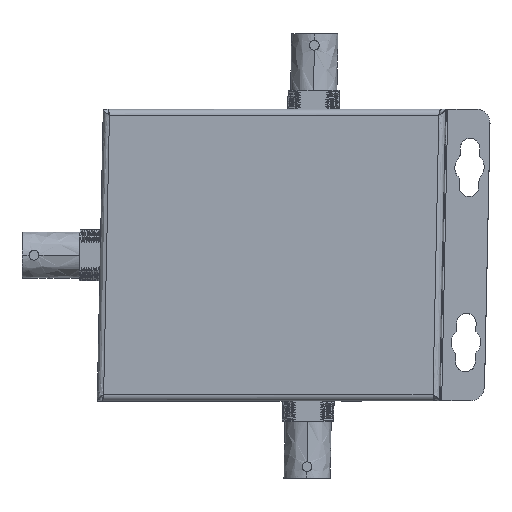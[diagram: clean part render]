
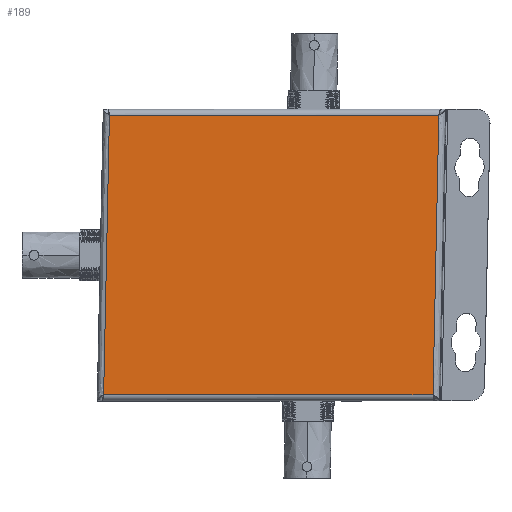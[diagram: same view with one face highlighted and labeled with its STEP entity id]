
A CAD part, top view. The second image highlights one B-rep face of the part: STEP entity #189.
In plain terms, the highlighted free-form (B-spline) face has degree [1, 1] with [2, 2] control points.
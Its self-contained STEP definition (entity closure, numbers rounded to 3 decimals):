
#189=ADVANCED_FACE('',(#1053),#14172,.T.);
#1053=FACE_OUTER_BOUND('',#1929,.T.);
#1929=EDGE_LOOP('',(#3284,#3285,#3286,#3287));
#3284=ORIENTED_EDGE('',*,*,#7842,.F.);
#3285=ORIENTED_EDGE('',*,*,#7910,.F.);
#3286=ORIENTED_EDGE('',*,*,#7905,.F.);
#3287=ORIENTED_EDGE('',*,*,#7848,.F.);
#7842=EDGE_CURVE('',#12675,#12676,#10233,.T.);
#7848=EDGE_CURVE('',#12676,#12677,#10237,.T.);
#7905=EDGE_CURVE('',#12677,#12710,#10274,.T.);
#7910=EDGE_CURVE('',#12710,#12675,#10279,.T.);
#10233=B_SPLINE_CURVE_WITH_KNOTS('',1,(#18961,#18962),.UNSPECIFIED.,.F.,
 .F.,(2,2),(-67.4,0.),.UNSPECIFIED.);
#10237=B_SPLINE_CURVE_WITH_KNOTS('',1,(#18991,#18992),.UNSPECIFIED.,.F.,
 .F.,(2,2),(-57.4,0.),.UNSPECIFIED.);
#10274=B_SPLINE_CURVE_WITH_KNOTS('',1,(#19165,#19166),.UNSPECIFIED.,.F.,
 .F.,(2,2),(-67.4,0.),.UNSPECIFIED.);
#10279=B_SPLINE_CURVE_WITH_KNOTS('',1,(#19191,#19192),.UNSPECIFIED.,.F.,
 .F.,(2,2),(-57.4,0.),.UNSPECIFIED.);
#12675=VERTEX_POINT('',#18611);
#12676=VERTEX_POINT('',#18612);
#12677=VERTEX_POINT('',#18613);
#12710=VERTEX_POINT('',#18646);
#14172=B_SPLINE_SURFACE_WITH_KNOTS('',1,1,((#18133,#18134),(#18135,#18136)),
 .UNSPECIFIED.,.F.,.F.,.F.,(2,2),(2,2),(-35.254,35.254),
(-41.133,41.133),.UNSPECIFIED.);
#18133=CARTESIAN_POINT('',(-10.608,62.313,-0.031));
#18134=CARTESIAN_POINT('',(72.748,62.359,0.381));
#18135=CARTESIAN_POINT('',(-12.083,-8.803,0.045));
#18136=CARTESIAN_POINT('',(71.274,-8.756,0.457));
#18611=CARTESIAN_POINT('',(-3.214,55.706,0.013));
#18612=CARTESIAN_POINT('',(65.08,55.744,0.351));
#18613=CARTESIAN_POINT('',(63.879,-2.15,0.413));
#18646=CARTESIAN_POINT('',(-4.414,-2.188,0.075));
#18961=CARTESIAN_POINT('',(-3.214,55.706,0.013));
#18962=CARTESIAN_POINT('',(65.08,55.744,0.351));
#18991=CARTESIAN_POINT('',(65.08,55.744,0.351));
#18992=CARTESIAN_POINT('',(63.879,-2.15,0.413));
#19165=CARTESIAN_POINT('',(63.879,-2.15,0.413));
#19166=CARTESIAN_POINT('',(-4.414,-2.188,0.075));
#19191=CARTESIAN_POINT('',(-4.414,-2.188,0.075));
#19192=CARTESIAN_POINT('',(-3.214,55.706,0.013));
